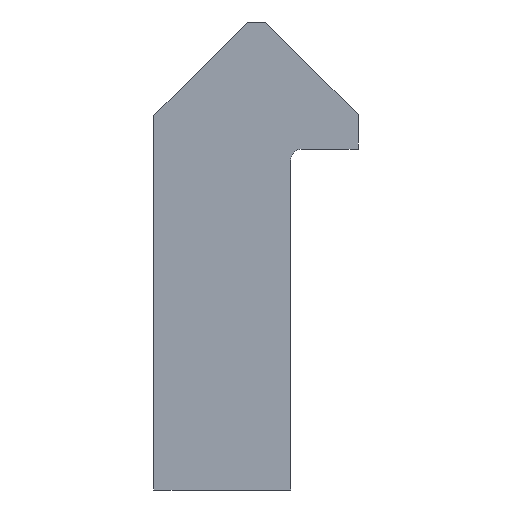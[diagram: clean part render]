
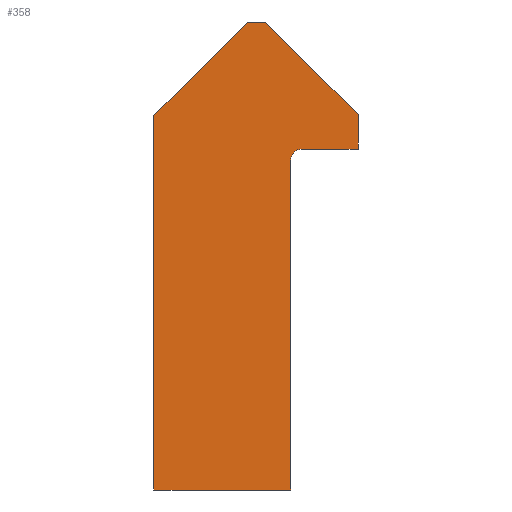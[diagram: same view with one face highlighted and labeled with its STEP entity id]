
A CAD part, left-side view. The second image highlights one B-rep face of the part: STEP entity #358.
In plain terms, the highlighted planar face has unit normal (-1, 0, 0).
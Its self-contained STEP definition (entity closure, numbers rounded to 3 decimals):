
#59=CARTESIAN_POINT('',(0.0,-4.75,7.93));
#60=VERTEX_POINT('',#59);
#67=CARTESIAN_POINT('',(0.0,-3.434,7.93));
#68=VERTEX_POINT('',#67);
#69=CARTESIAN_POINT('',(0.0,-3.434,7.93));
#70=DIRECTION('',(0.0,-1.0,0.0));
#71=VECTOR('',#70,1.316);
#72=LINE('',#69,#71);
#73=EDGE_CURVE('',#68,#60,#72,.T.);
#97=CARTESIAN_POINT('',(0.0,-4.75,8.74));
#98=VERTEX_POINT('',#97);
#105=CARTESIAN_POINT('',(0.0,-4.75,7.93));
#106=DIRECTION('',(0.0,0.0,1.0));
#107=VECTOR('',#106,0.81);
#108=LINE('',#105,#107);
#109=EDGE_CURVE('',#60,#98,#108,.T.);
#128=CARTESIAN_POINT('',(0.0,-2.602,10.888));
#129=VERTEX_POINT('',#128);
#136=CARTESIAN_POINT('',(0.0,-4.75,8.74));
#137=DIRECTION('',(0.0,0.707,0.707));
#138=VECTOR('',#137,3.038);
#139=LINE('',#136,#138);
#140=EDGE_CURVE('',#98,#129,#139,.T.);
#159=CARTESIAN_POINT('',(0.0,-2.178,10.888));
#160=VERTEX_POINT('',#159);
#167=CARTESIAN_POINT('',(0.0,-2.602,10.888));
#168=DIRECTION('',(0.0,1.0,0.0));
#169=VECTOR('',#168,0.424);
#170=LINE('',#167,#169);
#171=EDGE_CURVE('',#129,#160,#170,.T.);
#190=CARTESIAN_POINT('',(0.0,0.0,8.71));
#191=VERTEX_POINT('',#190);
#198=CARTESIAN_POINT('',(0.0,-2.178,10.888));
#199=DIRECTION('',(0.0,0.707,-0.707));
#200=VECTOR('',#199,3.08);
#201=LINE('',#198,#200);
#202=EDGE_CURVE('',#160,#191,#201,.T.);
#221=CARTESIAN_POINT('',(0.0,0.0,0.0));
#222=VERTEX_POINT('',#221);
#229=CARTESIAN_POINT('',(0.0,0.0,8.71));
#230=DIRECTION('',(0.0,0.0,-1.0));
#231=VECTOR('',#230,8.71);
#232=LINE('',#229,#231);
#233=EDGE_CURVE('',#191,#222,#232,.T.);
#252=CARTESIAN_POINT('',(0.0,-3.18,0.0));
#253=VERTEX_POINT('',#252);
#260=CARTESIAN_POINT('',(0.0,0.0,0.0));
#261=DIRECTION('',(0.0,-1.0,0.0));
#262=VECTOR('',#261,3.18);
#263=LINE('',#260,#262);
#264=EDGE_CURVE('',#222,#253,#263,.T.);
#283=CARTESIAN_POINT('',(0.0,-3.18,7.676));
#284=VERTEX_POINT('',#283);
#291=CARTESIAN_POINT('',(0.0,-3.18,0.0));
#292=DIRECTION('',(0.0,0.0,1.0));
#293=VECTOR('',#292,7.676);
#294=LINE('',#291,#293);
#295=EDGE_CURVE('',#253,#284,#294,.T.);
#314=CARTESIAN_POINT('',(0.0,-3.434,7.676));
#315=DIRECTION('',(1.0,0.0,0.0));
#316=DIRECTION('',(0.0,1.0,0.0));
#317=AXIS2_PLACEMENT_3D('',#314,#315,#316);
#318=CIRCLE('',#317,0.254);
#319=EDGE_CURVE('',#284,#68,#318,.T.);
#342=CARTESIAN_POINT('',(0.0,-1.94,5.32));
#343=DIRECTION('',(1.0,0.0,0.0));
#344=DIRECTION('',(0.0,0.0,-1.0));
#345=AXIS2_PLACEMENT_3D('',#342,#343,#344);
#346=PLANE('',#345);
#347=ORIENTED_EDGE('',*,*,#319,.T.);
#348=ORIENTED_EDGE('',*,*,#73,.T.);
#349=ORIENTED_EDGE('',*,*,#109,.T.);
#350=ORIENTED_EDGE('',*,*,#140,.T.);
#351=ORIENTED_EDGE('',*,*,#171,.T.);
#352=ORIENTED_EDGE('',*,*,#202,.T.);
#353=ORIENTED_EDGE('',*,*,#233,.T.);
#354=ORIENTED_EDGE('',*,*,#264,.T.);
#355=ORIENTED_EDGE('',*,*,#295,.T.);
#356=EDGE_LOOP('',(#347,#348,#349,#350,#351,#352,#353,#354,#355));
#357=FACE_OUTER_BOUND('',#356,.T.);
#358=ADVANCED_FACE('',(#357),#346,.F.);
